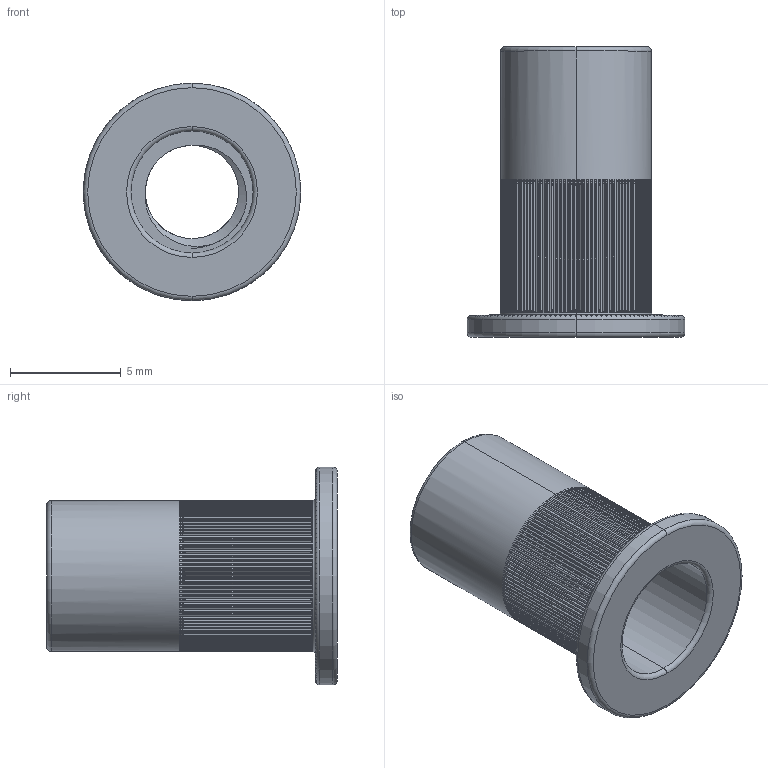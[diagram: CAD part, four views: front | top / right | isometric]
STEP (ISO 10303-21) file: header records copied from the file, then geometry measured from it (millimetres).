
FILE_DESCRIPTION (( 'STEP AP203' ), '1' );
FILE_NAME ('TANR-304-M5.STEP', '2026-08-24T08:51:58', ( '' ), ( '' ), 'SwSTEP 2.0', 'SolidWorks 2020', '' );
FILE_SCHEMA (( 'CONFIG_CONTROL_DESIGN' ));
Length unit declared in the file: millimetre
Products named in the file (1): TANR-304-M5
Bounding box: 9.8 x 13.1 x 9.8 mm (x, y, z)
Volume: 253.2 mm3; surface area: 700 mm2
Topology: 1 solids, 1 shells, 1165 faces, 3691 edges, 2294 vertices
Faces by surface type: plane 504, cylinder 385, cone 263, torus 10, bspline 3
Entity records: 40043 total; most frequent: CARTESIAN_POINT 14079, ORIENTED_EDGE 6438, DIRECTION 4309, EDGE_CURVE 3219, VERTEX_POINT 2058, AXIS2_PLACEMENT_3D 1576, EDGE_LOOP 1169, ADVANCED_FACE 1165
